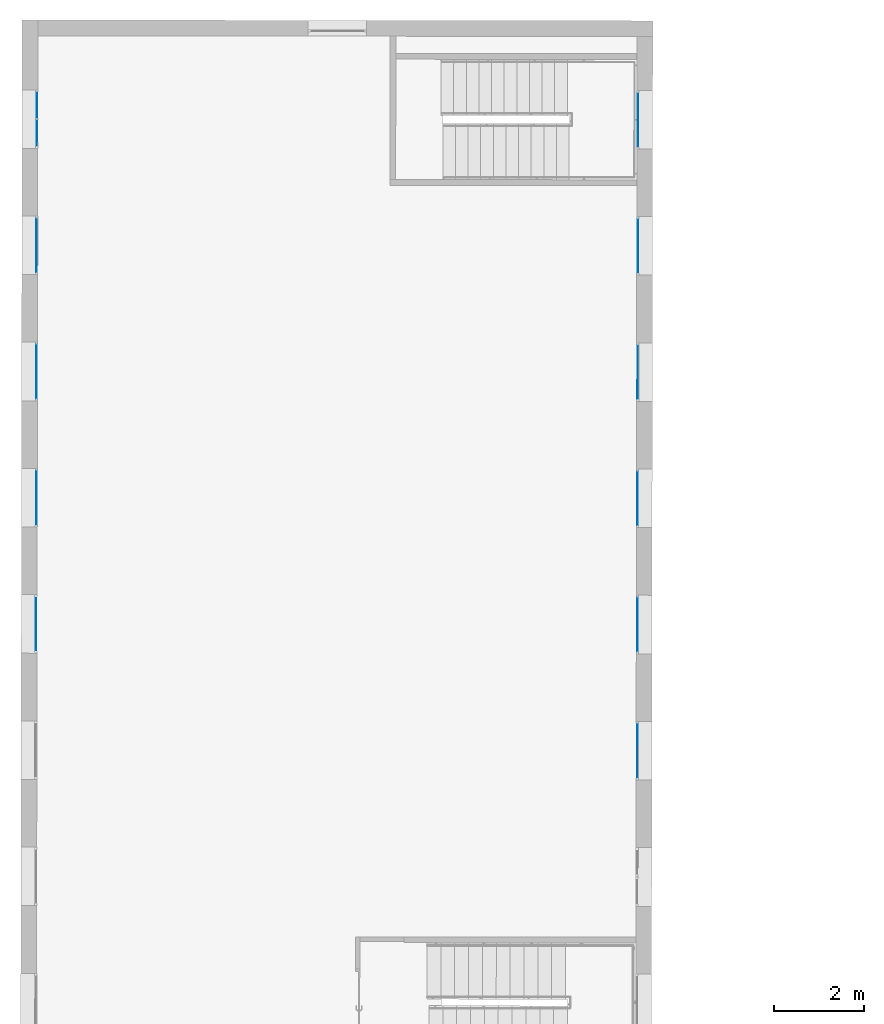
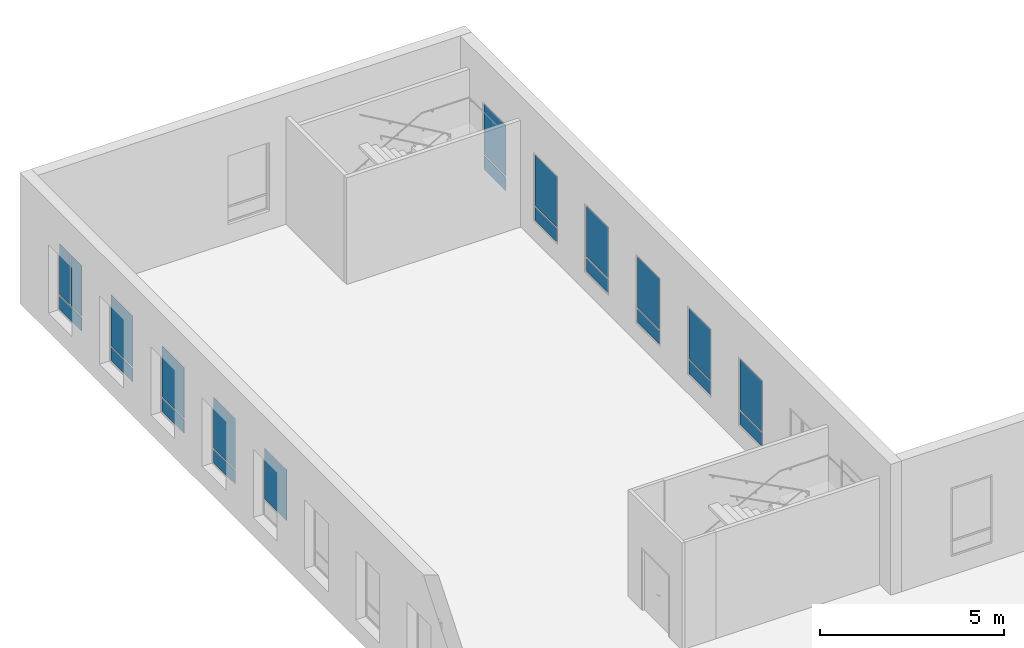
# One storey, part 27 of 35: 22 plates, 11 elements without a shape of their own.
"""IFC2X3 building model written with IfcOpenShell, lengths in metres."""

from ifc_helpers import new_model, entity, si_unit, converted_unit, derived_unit, direction, frame, frame_2d, origin, place, context, subcontext, project, spatial, rectangle, extrude, source, transform, mapped, material, layer, layer_set, type_object, type_shapes, element, aggregate, save


model = new_model("IFC2X3")

# Units and contexts
model_context = context("Model", 3, precision=1e-05, world=origin(), true_north=direction((6.123233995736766e-17, 1.0)))
body_context = subcontext(model_context, "Body", "Model", "MODEL_VIEW")
ifc_project = project(units=[si_unit("LENGTHUNIT", "METRE"), si_unit("AREAUNIT", "SQUARE_METRE"), converted_unit("PLANEANGLEUNIT", "DEGREE", entity("IfcPlaneAngleMeasure", 0.017453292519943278), si_unit("PLANEANGLEUNIT", "RADIAN"), dimensions=[0, 0, 0, 0, 0, 0, 0]), derived_unit("THERMALTRANSMITTANCEUNIT", [(si_unit("MASSUNIT", "GRAM", prefix="KILO"), 1), (si_unit("THERMODYNAMICTEMPERATUREUNIT", "KELVIN"), -1), (si_unit("TIMEUNIT", "SECOND"), -3)])], contexts=[model_context])

# Site, building, storey
site_placement = place(None, frame((1253.6752467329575, 2072.143113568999, 91.49999999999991), z_axis=(0.0, 0.0, 1.0), x_axis=(0.7237211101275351, 0.6900925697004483, 0.0)))
site = spatial("IfcSite", under=ifc_project, at=site_placement, Name="Surface", CompositionType="ELEMENT")
building_placement = place(site_placement, origin())
building = spatial("IfcBuilding", under=site, at=building_placement, CompositionType="ELEMENT")
storey_placement = place(building_placement, frame((0.0, 0.0, 3.549999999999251)))
storey = spatial("IfcBuildingStorey", under=building, at=storey_placement, Name="1-R+1", CompositionType="ELEMENT", Elevation=3.549999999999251)

# Curtain wall, plate
curtain_wall_type = type_object("IfcCurtainWallType", Name="Mur-rideau:Menuiserie Ext 1F+1OB VERTIC", PredefinedType="NOTDEFINED")
curtain_wall_1_placement = place(storey_placement, frame((0.0, 0.0, -3.549999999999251)))
curtain_wall_1 = element("IfcCurtainWall", 1, at=curtain_wall_1_placement, inside=storey, type_object=curtain_wall_type, Name="Mur-rideau:Menuiserie Ext 1F+1OB VERTIC", ObjectType="Mur-rideau:Menuiserie Ext 1F+1OB VERTIC")
ifc_material = material(Name="Verre")
ifc_layer = layer(ifc_material, 0.01)
ifc_layer_set = layer_set([ifc_layer], Name="Panneau système:Vitré")
plate_type_1 = type_object("IfcPlateType", Name="Panneau système:Vitré", PredefinedType="CURTAIN_PANEL", material=ifc_layer_set)
shared_shape_1 = source(origin(), body_context, "Body", "SweptSolid", [
    extrude(rectangle(XDim=0.01, YDim=1.199695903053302, at=frame_2d((0.0, -4.163336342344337e-15), x_axis=(1.0, 0.0))), frame((0.0, 0.0, 0.0), z_axis=(0.0, 0.0, 1.0), x_axis=(0.0, 1.0, 0.0)), (0.0, 0.0, 1.0), 0.44499999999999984),
])
type_shapes(plate_type_1, [shared_shape_1])
plate_1_placement = place(curtain_wall_1_placement, frame((159.11089533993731, 19.86178954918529, 4.219999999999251), z_axis=(0.0, 0.0, 1.0), x_axis=(0.6911544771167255, 0.7227070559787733, 0.0)))
plate_1 = element("IfcPlate", 2, at=plate_1_placement, type_object=plate_type_1, material=ifc_material, Name="Panneau système:Vitré", ObjectType="Panneau système:Vitré", context=body_context, shape_type="MappedRepresentation", body=[
    mapped(shared_shape_1, transform((0.0, 0.0, 0.0), scale=1.0)),
])

curtain_wall_2_placement = place(storey_placement, frame((0.0, 0.0, -3.549999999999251)))
curtain_wall_2 = element("IfcCurtainWall", 3, at=curtain_wall_2_placement, inside=storey, type_object=curtain_wall_type, Name="Mur-rideau:Menuiserie Ext 1F+1OB VERTIC", ObjectType="Mur-rideau:Menuiserie Ext 1F+1OB VERTIC")
plate_2_placement = place(curtain_wall_2_placement, frame((161.04565001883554, 21.885826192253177, 4.219999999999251), z_axis=(0.0, 0.0, 1.0), x_axis=(0.6911544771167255, 0.7227070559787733, 0.0)))
plate_2 = element("IfcPlate", 4, at=plate_2_placement, type_object=plate_type_1, material=ifc_material, Name="Panneau système:Vitré", ObjectType="Panneau système:Vitré", context=body_context, shape_type="MappedRepresentation", body=[
    mapped(shared_shape_1, transform((0.0, 0.0, 0.0), scale=1.0)),
])

curtain_wall_3_placement = place(storey_placement, frame((0.0, 0.0, -3.549999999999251)))
curtain_wall_3 = element("IfcCurtainWall", 5, at=curtain_wall_3_placement, inside=storey, type_object=curtain_wall_type, Name="Mur-rideau:Menuiserie Ext 1F+1OB VERTIC", ObjectType="Mur-rideau:Menuiserie Ext 1F+1OB VERTIC")
plate_3_placement = place(curtain_wall_3_placement, frame((162.98040469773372, 23.909862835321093, 4.219999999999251), z_axis=(0.0, 0.0, 1.0), x_axis=(0.6911544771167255, 0.7227070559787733, 0.0)))
plate_3 = element("IfcPlate", 6, at=plate_3_placement, type_object=plate_type_1, material=ifc_material, Name="Panneau système:Vitré", ObjectType="Panneau système:Vitré", context=body_context, shape_type="MappedRepresentation", body=[
    mapped(shared_shape_1, transform((0.0, 0.0, 0.0), scale=1.0)),
])

# Plate
plate_type_2 = type_object("IfcPlateType", Name="Panneau système:Vitré", PredefinedType="CURTAIN_PANEL", material=ifc_layer_set)
shared_shape_2 = source(origin(), body_context, "Body", "SweptSolid", [
    extrude(rectangle(XDim=0.01, YDim=1.199695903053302, at=frame_2d((0.0, -4.163336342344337e-15), x_axis=(1.0, 0.0))), frame((0.0, 0.0, 0.0), z_axis=(0.0, 0.0, 1.0), x_axis=(0.0, 1.0, 0.0)), (0.0, 0.0, 1.0), 1.6849999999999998),
])
type_shapes(plate_type_2, [shared_shape_2])
plate_4_placement = place(curtain_wall_1_placement, frame((159.11089533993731, 19.86178954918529, 4.714999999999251), z_axis=(0.0, 0.0, 1.0), x_axis=(0.6911544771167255, 0.7227070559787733, 0.0)))
plate_4 = element("IfcPlate", 7, at=plate_4_placement, type_object=plate_type_2, material=ifc_material, Name="Panneau système:Vitré", ObjectType="Panneau système:Vitré", context=body_context, shape_type="MappedRepresentation", body=[
    mapped(shared_shape_2, transform((0.0, 0.0, 0.0), scale=1.0)),
])

aggregate(curtain_wall_1, [plate_1, plate_4])

plate_5_placement = place(curtain_wall_2_placement, frame((161.04565001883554, 21.885826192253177, 4.714999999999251), z_axis=(0.0, 0.0, 1.0), x_axis=(0.6911544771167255, 0.7227070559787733, 0.0)))
plate_5 = element("IfcPlate", 8, at=plate_5_placement, type_object=plate_type_2, material=ifc_material, Name="Panneau système:Vitré", ObjectType="Panneau système:Vitré", context=body_context, shape_type="MappedRepresentation", body=[
    mapped(shared_shape_2, transform((0.0, 0.0, 0.0), scale=1.0)),
])

aggregate(curtain_wall_2, [plate_2, plate_5])

plate_6_placement = place(curtain_wall_3_placement, frame((162.98040469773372, 23.909862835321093, 4.714999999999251), z_axis=(0.0, 0.0, 1.0), x_axis=(0.6911544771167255, 0.7227070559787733, 0.0)))
plate_6 = element("IfcPlate", 9, at=plate_6_placement, type_object=plate_type_2, material=ifc_material, Name="Panneau système:Vitré", ObjectType="Panneau système:Vitré", context=body_context, shape_type="MappedRepresentation", body=[
    mapped(shared_shape_2, transform((0.0, 0.0, 0.0), scale=1.0)),
])

aggregate(curtain_wall_3, [plate_3, plate_6])

# Curtain wall, plate
curtain_wall_4_placement = place(storey_placement, frame((0.0, 0.0, -3.549999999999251)))
curtain_wall_4 = element("IfcCurtainWall", 10, at=curtain_wall_4_placement, inside=storey, type_object=curtain_wall_type, Name="Mur-rideau:Menuiserie Ext 1F+1OB VERTIC", ObjectType="Mur-rideau:Menuiserie Ext 1F+1OB VERTIC")
plate_7_placement = place(curtain_wall_4_placement, frame((157.1733643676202, 17.840410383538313, 4.714999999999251), z_axis=(0.0, 0.0, 1.0), x_axis=(0.6911544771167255, 0.7227070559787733, 0.0)))
plate_7 = element("IfcPlate", 11, at=plate_7_placement, type_object=plate_type_2, material=ifc_material, Name="Panneau système:Vitré", ObjectType="Panneau système:Vitré", context=body_context, shape_type="MappedRepresentation", body=[
    mapped(shared_shape_2, transform((0.0, 0.0, 0.0), scale=1.0)),
])
aggregate(curtain_wall_4, [plate_7])

# Curtain wall, plates
curtain_wall_5_placement = place(storey_placement, frame((0.0, 0.0, -3.549999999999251)))
curtain_wall_5 = element("IfcCurtainWall", 12, at=curtain_wall_5_placement, inside=storey, type_object=curtain_wall_type, Name="Mur-rideau:Menuiserie Ext 1F+1OB VERTIC", ObjectType="Mur-rideau:Menuiserie Ext 1F+1OB VERTIC")
plate_type_3 = type_object("IfcPlateType", Name="Panneau système:Vitré", PredefinedType="CURTAIN_PANEL", material=ifc_layer_set)
shared_shape_3 = source(origin(), body_context, "Body", "SweptSolid", [
    extrude(rectangle(XDim=0.44499999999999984, YDim=1.1996959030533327, at=frame_2d((0.0, -5.773159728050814e-15), x_axis=(1.0, 0.0))), frame((0.0, -0.005000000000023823, 0.22249999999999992), z_axis=(0.0, 1.0, 0.0), x_axis=(0.0, 0.0, 1.0)), (0.0, 0.0, 1.0), 0.01),
])
type_shapes(plate_type_3, [shared_shape_3])
plate_8_placement = place(curtain_wall_5_placement, frame((164.91515937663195, 25.933899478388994, 4.219999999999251), z_axis=(0.0, 0.0, 1.0), x_axis=(0.6911544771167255, 0.7227070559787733, 0.0)))
plate_8 = element("IfcPlate", 13, at=plate_8_placement, type_object=plate_type_3, material=ifc_material, Name="Panneau système:Vitré", ObjectType="Panneau système:Vitré", context=body_context, shape_type="MappedRepresentation", body=[
    mapped(shared_shape_3, transform((0.0, 0.0, 0.0), scale=1.0)),
])
plate_type_4 = type_object("IfcPlateType", Name="Panneau système:Vitré", PredefinedType="CURTAIN_PANEL", material=ifc_layer_set)
shared_shape_4 = source(origin(), body_context, "Body", "SweptSolid", [
    extrude(rectangle(XDim=0.01, YDim=0.5748479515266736, at=frame_2d((0.0, 8.326672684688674e-16), x_axis=(1.0, 0.0))), frame((0.0, 0.0, 0.0), z_axis=(0.0, 0.0, 1.0), x_axis=(0.0, 1.0, 0.0)), (0.0, 0.0, 1.0), 1.6850000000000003),
])
type_shapes(plate_type_4, [shared_shape_4])
plate_9_placement = place(curtain_wall_5_placement, frame((164.6992261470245, 25.708108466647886, 4.714999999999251), z_axis=(0.0, 0.0, 1.0), x_axis=(0.6911544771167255, 0.7227070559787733, 0.0)))
plate_9 = element("IfcPlate", 14, at=plate_9_placement, type_object=plate_type_4, material=ifc_material, Name="Panneau système:Vitré", ObjectType="Panneau système:Vitré", context=body_context, shape_type="MappedRepresentation", body=[
    mapped(shared_shape_4, transform((0.0, 0.0, 0.0), scale=1.0)),
])
plate_10_placement = place(curtain_wall_5_placement, frame((165.13109260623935, 26.15969049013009, 4.714999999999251), z_axis=(0.0, 0.0, 1.0), x_axis=(0.6911544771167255, 0.7227070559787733, 0.0)))
plate_10 = element("IfcPlate", 15, at=plate_10_placement, type_object=plate_type_4, material=ifc_material, Name="Panneau système:Vitré", ObjectType="Panneau système:Vitré", context=body_context, shape_type="MappedRepresentation", body=[
    mapped(shared_shape_4, transform((0.0, 0.0, 0.0), scale=1.0)),
])
aggregate(curtain_wall_5, [plate_8, plate_9, plate_10])

# Curtain wall, plate
curtain_wall_6_placement = place(storey_placement, frame((0.0, 0.0, -3.549999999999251)))
curtain_wall_6 = element("IfcCurtainWall", 16, at=curtain_wall_6_placement, inside=storey, type_object=curtain_wall_type, Name="Mur-rideau:Menuiserie Ext 1F+1OB VERTIC", ObjectType="Mur-rideau:Menuiserie Ext 1F+1OB VERTIC")
plate_type_5 = type_object("IfcPlateType", Name="Panneau système:Vitré", PredefinedType="CURTAIN_PANEL", material=ifc_layer_set)
shared_shape_5 = source(origin(), body_context, "Body", "SweptSolid", [
    extrude(rectangle(XDim=0.01, YDim=1.199695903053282, at=frame_2d((0.0, 4.163336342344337e-15), x_axis=(1.0, 0.0))), frame((0.0, 0.0, 0.0), z_axis=(0.0, 0.0, 1.0), x_axis=(0.0, 1.0, 0.0)), (0.0, 0.0, 1.0), 0.44499999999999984),
])
type_shapes(plate_type_5, [shared_shape_5])
plate_11_placement = place(curtain_wall_6_placement, frame((174.55687420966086, 16.717488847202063, 4.219999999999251), z_axis=(0.0, 0.0, 1.0), x_axis=(0.6909838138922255, 0.722870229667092, 0.0)))
plate_11 = element("IfcPlate", 17, at=plate_11_placement, type_object=plate_type_5, material=ifc_material, Name="Panneau système:Vitré", ObjectType="Panneau système:Vitré", context=body_context, shape_type="MappedRepresentation", body=[
    mapped(shared_shape_5, transform((0.0, 0.0, 0.0), scale=1.0)),
])

curtain_wall_7_placement = place(storey_placement, frame((0.0, 0.0, -3.549999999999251)))
curtain_wall_7 = element("IfcCurtainWall", 18, at=curtain_wall_7_placement, inside=storey, type_object=curtain_wall_type, Name="Mur-rideau:Menuiserie Ext 1F+1OB VERTIC", ObjectType="Mur-rideau:Menuiserie Ext 1F+1OB VERTIC")
plate_12_placement = place(curtain_wall_7_placement, frame((172.62485809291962, 14.696317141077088, 4.219999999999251), z_axis=(0.0, 0.0, 1.0), x_axis=(0.6909838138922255, 0.722870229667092, 0.0)))
plate_12 = element("IfcPlate", 19, at=plate_12_placement, type_object=plate_type_5, material=ifc_material, Name="Panneau système:Vitré", ObjectType="Panneau système:Vitré", context=body_context, shape_type="MappedRepresentation", body=[
    mapped(shared_shape_5, transform((0.0, 0.0, 0.0), scale=1.0)),
])

curtain_wall_8_placement = place(storey_placement, frame((0.0, 0.0, -3.549999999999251)))
curtain_wall_8 = element("IfcCurtainWall", 20, at=curtain_wall_8_placement, inside=storey, type_object=curtain_wall_type, Name="Mur-rideau:Menuiserie Ext 1F+1OB VERTIC", ObjectType="Mur-rideau:Menuiserie Ext 1F+1OB VERTIC")
plate_13_placement = place(curtain_wall_8_placement, frame((170.6901034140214, 12.672280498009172, 4.219999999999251), z_axis=(0.0, 0.0, 1.0), x_axis=(0.6909838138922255, 0.722870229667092, 0.0)))
plate_13 = element("IfcPlate", 21, at=plate_13_placement, type_object=plate_type_5, material=ifc_material, Name="Panneau système:Vitré", ObjectType="Panneau système:Vitré", context=body_context, shape_type="MappedRepresentation", body=[
    mapped(shared_shape_5, transform((0.0, 0.0, 0.0), scale=1.0)),
])

curtain_wall_9_placement = place(storey_placement, frame((0.0, 0.0, -3.549999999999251)))
curtain_wall_9 = element("IfcCurtainWall", 22, at=curtain_wall_9_placement, inside=storey, type_object=curtain_wall_type, Name="Mur-rideau:Menuiserie Ext 1F+1OB VERTIC", ObjectType="Mur-rideau:Menuiserie Ext 1F+1OB VERTIC")
plate_14_placement = place(curtain_wall_9_placement, frame((168.75534873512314, 10.64824385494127, 4.219999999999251), z_axis=(0.0, 0.0, 1.0), x_axis=(0.6909838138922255, 0.722870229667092, 0.0)))
plate_14 = element("IfcPlate", 23, at=plate_14_placement, type_object=plate_type_5, material=ifc_material, Name="Panneau système:Vitré", ObjectType="Panneau système:Vitré", context=body_context, shape_type="MappedRepresentation", body=[
    mapped(shared_shape_5, transform((0.0, 0.0, 0.0), scale=1.0)),
])

curtain_wall_10_placement = place(storey_placement, frame((0.0, 0.0, -3.549999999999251)))
curtain_wall_10 = element("IfcCurtainWall", 24, at=curtain_wall_10_placement, inside=storey, type_object=curtain_wall_type, Name="Mur-rideau:Menuiserie Ext 1F+1OB VERTIC", ObjectType="Mur-rideau:Menuiserie Ext 1F+1OB VERTIC")
plate_15_placement = place(curtain_wall_10_placement, frame((166.820594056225, 8.624207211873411, 4.219999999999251), z_axis=(0.0, 0.0, 1.0), x_axis=(0.6909838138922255, 0.722870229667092, 0.0)))
plate_15 = element("IfcPlate", 25, at=plate_15_placement, type_object=plate_type_5, material=ifc_material, Name="Panneau système:Vitré", ObjectType="Panneau système:Vitré", context=body_context, shape_type="MappedRepresentation", body=[
    mapped(shared_shape_5, transform((0.0, 0.0, 0.0), scale=1.0)),
])

curtain_wall_11_placement = place(storey_placement, frame((0.0, 0.0, -3.549999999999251)))
curtain_wall_11 = element("IfcCurtainWall", 26, at=curtain_wall_11_placement, inside=storey, type_object=curtain_wall_type, Name="Mur-rideau:Menuiserie Ext 1F+1OB VERTIC", ObjectType="Mur-rideau:Menuiserie Ext 1F+1OB VERTIC")
plate_16_placement = place(curtain_wall_11_placement, frame((164.88583937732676, 6.60017056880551, 4.219999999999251), z_axis=(0.0, 0.0, 1.0), x_axis=(0.6909838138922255, 0.722870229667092, 0.0)))
plate_16 = element("IfcPlate", 27, at=plate_16_placement, type_object=plate_type_5, material=ifc_material, Name="Panneau système:Vitré", ObjectType="Panneau système:Vitré", context=body_context, shape_type="MappedRepresentation", body=[
    mapped(shared_shape_5, transform((0.0, 0.0, 0.0), scale=1.0)),
])

# Plate
plate_type_6 = type_object("IfcPlateType", Name="Panneau système:Vitré", PredefinedType="CURTAIN_PANEL", material=ifc_layer_set)
shared_shape_6 = source(origin(), body_context, "Body", "SweptSolid", [
    extrude(rectangle(XDim=0.01, YDim=1.199695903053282, at=frame_2d((0.0, 4.163336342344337e-15), x_axis=(1.0, 0.0))), frame((0.0, 0.0, 0.0), z_axis=(0.0, 0.0, 1.0), x_axis=(0.0, 1.0, 0.0)), (0.0, 0.0, 1.0), 1.6849999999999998),
])
type_shapes(plate_type_6, [shared_shape_6])
plate_17_placement = place(curtain_wall_6_placement, frame((174.55687420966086, 16.717488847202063, 4.714999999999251), z_axis=(0.0, 0.0, 1.0), x_axis=(0.6909838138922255, 0.722870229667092, 0.0)))
plate_17 = element("IfcPlate", 28, at=plate_17_placement, type_object=plate_type_6, material=ifc_material, Name="Panneau système:Vitré", ObjectType="Panneau système:Vitré", context=body_context, shape_type="MappedRepresentation", body=[
    mapped(shared_shape_6, transform((0.0, 0.0, 0.0), scale=1.0)),
])

aggregate(curtain_wall_6, [plate_11, plate_17])

plate_18_placement = place(curtain_wall_7_placement, frame((172.62485809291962, 14.696317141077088, 4.714999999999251), z_axis=(0.0, 0.0, 1.0), x_axis=(0.6909838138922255, 0.722870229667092, 0.0)))
plate_18 = element("IfcPlate", 29, at=plate_18_placement, type_object=plate_type_6, material=ifc_material, Name="Panneau système:Vitré", ObjectType="Panneau système:Vitré", context=body_context, shape_type="MappedRepresentation", body=[
    mapped(shared_shape_6, transform((0.0, 0.0, 0.0), scale=1.0)),
])

aggregate(curtain_wall_7, [plate_12, plate_18])

plate_19_placement = place(curtain_wall_8_placement, frame((170.6901034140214, 12.672280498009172, 4.714999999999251), z_axis=(0.0, 0.0, 1.0), x_axis=(0.6909838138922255, 0.722870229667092, 0.0)))
plate_19 = element("IfcPlate", 30, at=plate_19_placement, type_object=plate_type_6, material=ifc_material, Name="Panneau système:Vitré", ObjectType="Panneau système:Vitré", context=body_context, shape_type="MappedRepresentation", body=[
    mapped(shared_shape_6, transform((0.0, 0.0, 0.0), scale=1.0)),
])

aggregate(curtain_wall_8, [plate_13, plate_19])

plate_20_placement = place(curtain_wall_9_placement, frame((168.75534873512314, 10.64824385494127, 4.714999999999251), z_axis=(0.0, 0.0, 1.0), x_axis=(0.6909838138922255, 0.722870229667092, 0.0)))
plate_20 = element("IfcPlate", 31, at=plate_20_placement, type_object=plate_type_6, material=ifc_material, Name="Panneau système:Vitré", ObjectType="Panneau système:Vitré", context=body_context, shape_type="MappedRepresentation", body=[
    mapped(shared_shape_6, transform((0.0, 0.0, 0.0), scale=1.0)),
])

aggregate(curtain_wall_9, [plate_14, plate_20])

plate_21_placement = place(curtain_wall_10_placement, frame((166.820594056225, 8.624207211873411, 4.714999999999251), z_axis=(0.0, 0.0, 1.0), x_axis=(0.6909838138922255, 0.722870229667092, 0.0)))
plate_21 = element("IfcPlate", 32, at=plate_21_placement, type_object=plate_type_6, material=ifc_material, Name="Panneau système:Vitré", ObjectType="Panneau système:Vitré", context=body_context, shape_type="MappedRepresentation", body=[
    mapped(shared_shape_6, transform((0.0, 0.0, 0.0), scale=1.0)),
])

aggregate(curtain_wall_10, [plate_15, plate_21])

plate_22_placement = place(curtain_wall_11_placement, frame((164.88583937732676, 6.60017056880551, 4.714999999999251), z_axis=(0.0, 0.0, 1.0), x_axis=(0.6909838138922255, 0.722870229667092, 0.0)))
plate_22 = element("IfcPlate", 33, at=plate_22_placement, type_object=plate_type_6, material=ifc_material, Name="Panneau système:Vitré", ObjectType="Panneau système:Vitré", context=body_context, shape_type="MappedRepresentation", body=[
    mapped(shared_shape_6, transform((0.0, 0.0, 0.0), scale=1.0)),
])

aggregate(curtain_wall_11, [plate_16, plate_22])

save(model, "model.ifc")
